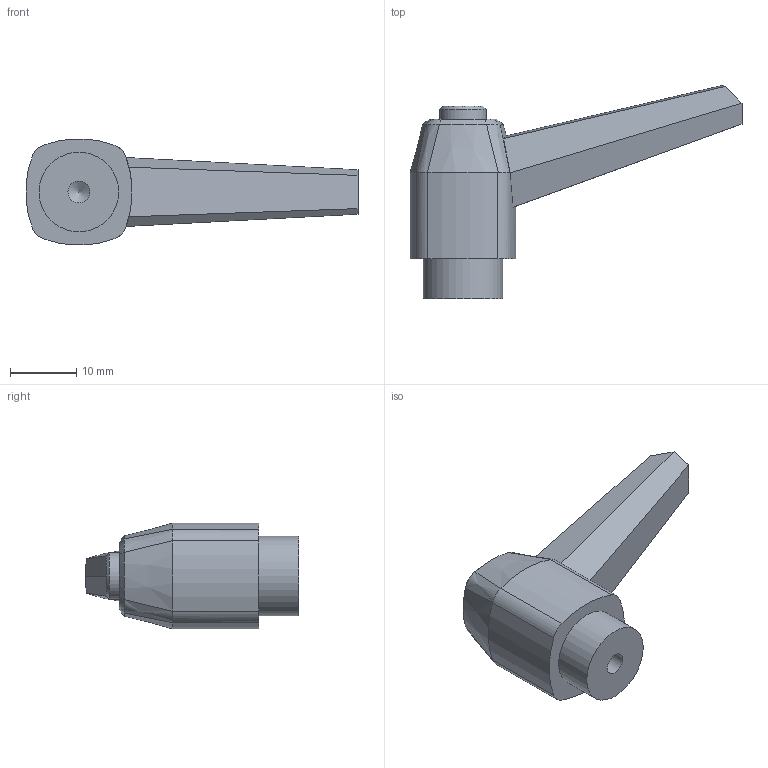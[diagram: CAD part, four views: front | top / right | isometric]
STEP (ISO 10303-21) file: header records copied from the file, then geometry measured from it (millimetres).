
FILE_DESCRIPTION (( 'STEP AP214' ), '1' );
FILE_NAME ('500-42-M4-SW.step', '2022-04-13T07:18:35', ( '' ), ( '' ), 'SwSTEP 2.0', 'SolidWorks 2019', '' );
FILE_SCHEMA (( 'AUTOMOTIVE_DESIGN' ));
Length unit declared in the file: millimetre
Products named in the file (1): 500-42-M4-SW
Bounding box: 49.96 x 32.15 x 15.92 mm (x, y, z)
Volume: 7028.5 mm3; surface area: 2902.2 mm2
Topology: 1 solids, 1 shells, 51 faces, 123 edges, 78 vertices
Faces by surface type: plane 21, cylinder 12, cone 10, bspline 8
Full cylindrical faces by diameter (mm): 3.3 x1, 7 x1, 8 x1, 12 x1
Entity records: 1822 total; most frequent: CARTESIAN_POINT 729, ORIENTED_EDGE 232, DIRECTION 182, EDGE_CURVE 116, VERTEX_POINT 77, AXIS2_PLACEMENT_3D 74, EDGE_LOOP 61, FACE_OUTER_BOUND 55
